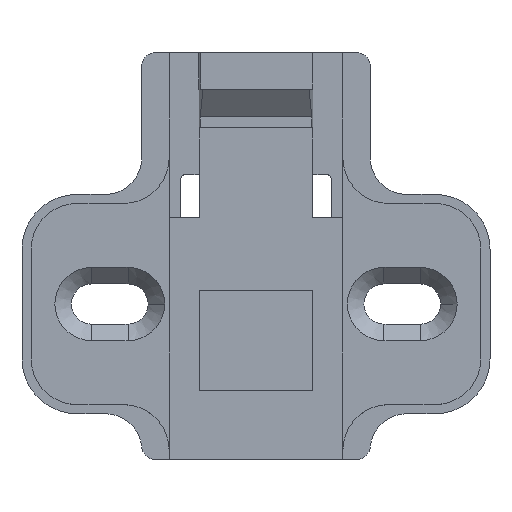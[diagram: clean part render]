
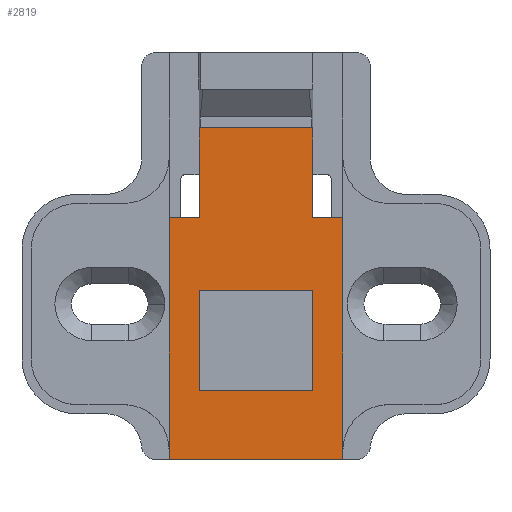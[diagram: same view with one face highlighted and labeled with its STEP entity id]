
A CAD part, top view. The second image highlights one B-rep face of the part: STEP entity #2819.
In plain terms, the highlighted planar face has unit normal (0, 0, 1).
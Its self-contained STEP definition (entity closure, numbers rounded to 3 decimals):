
#5 = VERTEX_POINT ( 'NONE', #1510 ) ;
#15 = LINE ( 'NONE', #2389, #1749 ) ;
#16 = EDGE_CURVE ( 'NONE', #5, #2319, #710, .T. ) ;
#48 = LINE ( 'NONE', #2027, #3036 ) ;
#89 = EDGE_CURVE ( 'NONE', #1773, #1853, #2866, .T. ) ;
#114 = CARTESIAN_POINT ( 'NONE',  ( -6.2, 1.5, 9. ) ) ;
#130 = LINE ( 'NONE', #444, #2577 ) ;
#180 = ORIENTED_EDGE ( 'NONE', *, *, #902, .F. ) ;
#259 = DIRECTION ( 'NONE',  ( 1., 0., 0. ) ) ;
#263 = CARTESIAN_POINT ( 'NONE',  ( 6.2, 14.15, 9. ) ) ;
#304 = VERTEX_POINT ( 'NONE', #916 ) ;
#328 = LINE ( 'NONE', #263, #2696 ) ;
#371 = VERTEX_POINT ( 'NONE', #422 ) ;
#385 = VECTOR ( 'NONE', #1600, 1000. ) ;
#422 = CARTESIAN_POINT ( 'NONE',  ( -6.134, 9.45, 9. ) ) ;
#425 = CARTESIAN_POINT ( 'NONE',  ( -6.2, 14.15, 9. ) ) ;
#444 = CARTESIAN_POINT ( 'NONE',  ( -6.134, 14.15, 9. ) ) ;
#458 = CARTESIAN_POINT ( 'NONE',  ( -6.2, 19.27, 9. ) ) ;
#490 = VECTOR ( 'NONE', #1424, 1000. ) ;
#494 = CARTESIAN_POINT ( 'NONE',  ( 9.5, 33.22, 9. ) ) ;
#511 = DIRECTION ( 'NONE',  ( 0., 0., -1. ) ) ;
#523 = CARTESIAN_POINT ( 'NONE',  ( -6.134, 14.15, 9. ) ) ;
#570 = EDGE_LOOP ( 'NONE', ( #1516, #1429, #2706, #2419 ) ) ;
#574 = LINE ( 'NONE', #1182, #490 ) ;
#604 = VERTEX_POINT ( 'NONE', #2284 ) ;
#654 = VECTOR ( 'NONE', #1985, 1000. ) ;
#663 = DIRECTION ( 'NONE',  ( 0., 1., 0. ) ) ;
#710 = LINE ( 'NONE', #1260, #654 ) ;
#719 = EDGE_CURVE ( 'NONE', #1468, #1355, #2976, .T. ) ;
#757 = DIRECTION ( 'NONE',  ( 1., 0., 0. ) ) ;
#758 = DIRECTION ( 'NONE',  ( 0., -1., 0. ) ) ;
#894 = ORIENTED_EDGE ( 'NONE', *, *, #2773, .T. ) ;
#902 = EDGE_CURVE ( 'NONE', #1355, #1744, #15, .T. ) ;
#903 = EDGE_CURVE ( 'NONE', #2319, #304, #574, .T. ) ;
#906 = LINE ( 'NONE', #2868, #1455 ) ;
#916 = CARTESIAN_POINT ( 'NONE',  ( 9.5, 9.45, 9. ) ) ;
#927 = ORIENTED_EDGE ( 'NONE', *, *, #16, .F. ) ;
#954 = DIRECTION ( 'NONE',  ( 0., 1., 0. ) ) ;
#955 = CARTESIAN_POINT ( 'NONE',  ( -9.5, -17., 9. ) ) ;
#969 = PLANE ( 'NONE',  #2638 ) ;
#1067 = CARTESIAN_POINT ( 'NONE',  ( 6.2, 19.27, 9. ) ) ;
#1090 = ORIENTED_EDGE ( 'NONE', *, *, #2551, .F. ) ;
#1099 = EDGE_CURVE ( 'NONE', #1773, #604, #48, .T. ) ;
#1130 = LINE ( 'NONE', #2612, #2340 ) ;
#1182 = CARTESIAN_POINT ( 'NONE',  ( 6.404, 9.45, 9. ) ) ;
#1196 = DIRECTION ( 'NONE',  ( 0., 1., 0. ) ) ;
#1223 = CARTESIAN_POINT ( 'NONE',  ( 6.2, 1.5, 9. ) ) ;
#1260 = CARTESIAN_POINT ( 'NONE',  ( 6.134, 9.45, 9. ) ) ;
#1286 = VERTEX_POINT ( 'NONE', #2257 ) ;
#1306 = FACE_OUTER_BOUND ( 'NONE', #1531, .T. ) ;
#1307 = VERTEX_POINT ( 'NONE', #2013 ) ;
#1342 = LINE ( 'NONE', #458, #1761 ) ;
#1355 = VERTEX_POINT ( 'NONE', #2468 ) ;
#1356 = ORIENTED_EDGE ( 'NONE', *, *, #2535, .F. ) ;
#1409 = ORIENTED_EDGE ( 'NONE', *, *, #1915, .F. ) ;
#1424 = DIRECTION ( 'NONE',  ( 1., 0., 0. ) ) ;
#1428 = CARTESIAN_POINT ( 'NONE',  ( 6.404, 9.45, 9. ) ) ;
#1429 = ORIENTED_EDGE ( 'NONE', *, *, #89, .T. ) ;
#1433 = DIRECTION ( 'NONE',  ( 0., -1., 0. ) ) ;
#1438 = CARTESIAN_POINT ( 'NONE',  ( -9.5, 27.5, 9. ) ) ;
#1455 = VECTOR ( 'NONE', #2162, 1000. ) ;
#1468 = VERTEX_POINT ( 'NONE', #523 ) ;
#1510 = CARTESIAN_POINT ( 'NONE',  ( 6.134, 14.15, 9. ) ) ;
#1516 = ORIENTED_EDGE ( 'NONE', *, *, #1099, .F. ) ;
#1525 = CARTESIAN_POINT ( 'NONE',  ( 9.5, -17., 9. ) ) ;
#1531 = EDGE_LOOP ( 'NONE', ( #894, #2892, #1875, #927, #1090, #1409, #2161, #180, #2816, #2320, #1356, #2733 ) ) ;
#1578 = VERTEX_POINT ( 'NONE', #1525 ) ;
#1591 = EDGE_CURVE ( 'NONE', #304, #1578, #2476, .T. ) ;
#1600 = DIRECTION ( 'NONE',  ( -1., 0., 0. ) ) ;
#1616 = EDGE_CURVE ( 'NONE', #1307, #604, #1130, .T. ) ;
#1641 = DIRECTION ( 'NONE',  ( 1., 0., 0. ) ) ;
#1677 = CARTESIAN_POINT ( 'NONE',  ( 6.2, 1.5, 9. ) ) ;
#1744 = VERTEX_POINT ( 'NONE', #2428 ) ;
#1749 = VECTOR ( 'NONE', #954, 1000. ) ;
#1761 = VECTOR ( 'NONE', #1641, 1000. ) ;
#1767 = VECTOR ( 'NONE', #1908, 1000. ) ;
#1773 = VERTEX_POINT ( 'NONE', #114 ) ;
#1837 = CARTESIAN_POINT ( 'NONE',  ( 6.2, 5., 9. ) ) ;
#1853 = VERTEX_POINT ( 'NONE', #1677 ) ;
#1875 = ORIENTED_EDGE ( 'NONE', *, *, #903, .F. ) ;
#1908 = DIRECTION ( 'NONE',  ( 0., -1., 0. ) ) ;
#1915 = EDGE_CURVE ( 'NONE', #2160, #1286, #328, .T. ) ;
#1938 = CARTESIAN_POINT ( 'NONE',  ( -9.5, 33.22, 9. ) ) ;
#1950 = FACE_BOUND ( 'NONE', #570, .T. ) ;
#1959 = CARTESIAN_POINT ( 'NONE',  ( -9.5, -17., 9. ) ) ;
#1960 = EDGE_CURVE ( 'NONE', #2434, #2893, #2145, .T. ) ;
#1985 = DIRECTION ( 'NONE',  ( 0., -1., 0. ) ) ;
#2013 = CARTESIAN_POINT ( 'NONE',  ( 6.2, -9.5, 9. ) ) ;
#2027 = CARTESIAN_POINT ( 'NONE',  ( -6.2, 5., 9. ) ) ;
#2105 = VECTOR ( 'NONE', #2111, 1000. ) ;
#2111 = DIRECTION ( 'NONE',  ( 1., 0., 0. ) ) ;
#2142 = VECTOR ( 'NONE', #663, 1000. ) ;
#2145 = LINE ( 'NONE', #1938, #2542 ) ;
#2160 = VERTEX_POINT ( 'NONE', #1067 ) ;
#2161 = ORIENTED_EDGE ( 'NONE', *, *, #2424, .F. ) ;
#2162 = DIRECTION ( 'NONE',  ( -1., 0., 0. ) ) ;
#2172 = DIRECTION ( 'NONE',  ( -1., 0., 0. ) ) ;
#2178 = LINE ( 'NONE', #1428, #2729 ) ;
#2257 = CARTESIAN_POINT ( 'NONE',  ( 6.2, 14.15, 9. ) ) ;
#2284 = CARTESIAN_POINT ( 'NONE',  ( -6.2, -9.5, 9. ) ) ;
#2319 = VERTEX_POINT ( 'NONE', #2321 ) ;
#2320 = ORIENTED_EDGE ( 'NONE', *, *, #2810, .F. ) ;
#2321 = CARTESIAN_POINT ( 'NONE',  ( 6.134, 9.45, 9. ) ) ;
#2330 = EDGE_CURVE ( 'NONE', #1307, #1853, #2770, .T. ) ;
#2340 = VECTOR ( 'NONE', #2853, 1000. ) ;
#2389 = CARTESIAN_POINT ( 'NONE',  ( -6.2, 14.15, 9. ) ) ;
#2419 = ORIENTED_EDGE ( 'NONE', *, *, #1616, .T. ) ;
#2424 = EDGE_CURVE ( 'NONE', #1744, #2160, #1342, .T. ) ;
#2428 = CARTESIAN_POINT ( 'NONE',  ( -6.2, 19.27, 9. ) ) ;
#2434 = VERTEX_POINT ( 'NONE', #2586 ) ;
#2468 = CARTESIAN_POINT ( 'NONE',  ( -6.2, 14.15, 9. ) ) ;
#2476 = LINE ( 'NONE', #494, #1767 ) ;
#2535 = EDGE_CURVE ( 'NONE', #2434, #371, #2178, .T. ) ;
#2542 = VECTOR ( 'NONE', #758, 1000. ) ;
#2551 = EDGE_CURVE ( 'NONE', #1286, #5, #906, .T. ) ;
#2577 = VECTOR ( 'NONE', #1196, 1000. ) ;
#2586 = CARTESIAN_POINT ( 'NONE',  ( -9.5, 9.45, 9. ) ) ;
#2612 = CARTESIAN_POINT ( 'NONE',  ( 5.2, -9.5, 9. ) ) ;
#2638 = AXIS2_PLACEMENT_3D ( 'NONE', #1438, #511, #2172 ) ;
#2682 = DIRECTION ( 'NONE',  ( 0., -1., 0. ) ) ;
#2696 = VECTOR ( 'NONE', #1433, 1000. ) ;
#2706 = ORIENTED_EDGE ( 'NONE', *, *, #2330, .F. ) ;
#2729 = VECTOR ( 'NONE', #259, 1000. ) ;
#2733 = ORIENTED_EDGE ( 'NONE', *, *, #1960, .T. ) ;
#2770 = LINE ( 'NONE', #1837, #2142 ) ;
#2773 = EDGE_CURVE ( 'NONE', #2893, #1578, #2803, .T. ) ;
#2796 = VECTOR ( 'NONE', #757, 1000. ) ;
#2803 = LINE ( 'NONE', #955, #2105 ) ;
#2810 = EDGE_CURVE ( 'NONE', #371, #1468, #130, .T. ) ;
#2816 = ORIENTED_EDGE ( 'NONE', *, *, #719, .F. ) ;
#2819 = ADVANCED_FACE ( 'NONE', ( #1306, #1950 ), #969, .F. ) ;
#2853 = DIRECTION ( 'NONE',  ( -1., 0., 0. ) ) ;
#2866 = LINE ( 'NONE', #1223, #2796 ) ;
#2868 = CARTESIAN_POINT ( 'NONE',  ( 6.134, 14.15, 9. ) ) ;
#2892 = ORIENTED_EDGE ( 'NONE', *, *, #1591, .F. ) ;
#2893 = VERTEX_POINT ( 'NONE', #1959 ) ;
#2976 = LINE ( 'NONE', #425, #385 ) ;
#3036 = VECTOR ( 'NONE', #2682, 1000. ) ;
